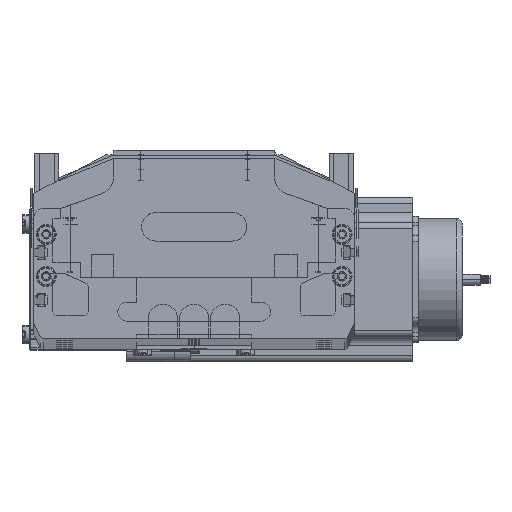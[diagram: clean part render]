
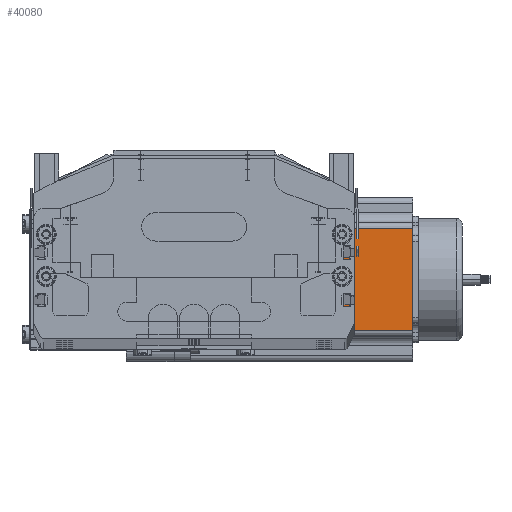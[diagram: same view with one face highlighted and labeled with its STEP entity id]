
A CAD part, top view. The second image highlights one B-rep face of the part: STEP entity #40080.
In plain terms, the highlighted planar face has unit normal (0, 0, 1) as drawn and (0, -1, 0) by its records, which use the part's own axes.
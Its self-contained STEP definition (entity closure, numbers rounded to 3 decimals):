
#36998 = EDGE_CURVE ( 'NONE', #40074, #40078, #46403, .T. ) ;
#39754 = ORIENTED_EDGE ( 'NONE', *, *, #40007, .F. ) ;
#39834 = ORIENTED_EDGE ( 'NONE', *, *, #36998, .T. ) ;
#39947 = VERTEX_POINT ( 'NONE', #50832 ) ;
#40004 = ORIENTED_EDGE ( 'NONE', *, *, #40005, .T. ) ;
#40005 = EDGE_CURVE ( 'NONE', #39947, #40077, #50705, .T. ) ;
#40006 = EDGE_CURVE ( 'NONE', #40078, #39947, #50894, .T. ) ;
#40007 = EDGE_CURVE ( 'NONE', #40074, #40077, #50856, .T. ) ;
#40072 = EDGE_LOOP ( 'NONE', ( #40079, #40004, #39754, #39834 ) ) ;
#40074 = VERTEX_POINT ( 'NONE', #51108 ) ;
#40077 = VERTEX_POINT ( 'NONE', #50955 ) ;
#40078 = VERTEX_POINT ( 'NONE', #51148 ) ;
#40079 = ORIENTED_EDGE ( 'NONE', *, *, #40006, .T. ) ;
#40080 = ADVANCED_FACE ( 'NONE', ( #51111 ), #51107, .F. ) ;
#46334 = DIRECTION ( 'NONE',  ( 0., 0., -1. ) ) ;
#46382 = VECTOR ( 'NONE', #46334, 1000. ) ;
#46383 = CARTESIAN_POINT ( 'NONE',  ( 16.16, 0., 116.5 ) ) ;
#46403 = LINE ( 'NONE', #46383, #46382 ) ;
#50705 = LINE ( 'NONE', #50885, #50896 ) ;
#50832 = CARTESIAN_POINT ( 'NONE',  ( 69.74, 0., 0. ) ) ;
#50848 = DIRECTION ( 'NONE',  ( 1., 0., 0. ) ) ;
#50850 = VECTOR ( 'NONE', #50848, 1000. ) ;
#50852 = CARTESIAN_POINT ( 'NONE',  ( 0., 0., 116.5 ) ) ;
#50856 = LINE ( 'NONE', #50852, #50850 ) ;
#50859 = DIRECTION ( 'NONE',  ( 1., 0., 0. ) ) ;
#50885 = CARTESIAN_POINT ( 'NONE',  ( 69.74, 0., 116.5 ) ) ;
#50892 = VECTOR ( 'NONE', #50859, 1000. ) ;
#50893 = CARTESIAN_POINT ( 'NONE',  ( 0., 0., 0. ) ) ;
#50894 = LINE ( 'NONE', #50893, #50892 ) ;
#50895 = DIRECTION ( 'NONE',  ( 0., 0., 1. ) ) ;
#50896 = VECTOR ( 'NONE', #50895, 1000. ) ;
#50955 = CARTESIAN_POINT ( 'NONE',  ( 69.74, 0., 116.5 ) ) ;
#51107 = PLANE ( 'NONE',  #51150 ) ;
#51108 = CARTESIAN_POINT ( 'NONE',  ( 16.16, 0., 116.5 ) ) ;
#51109 = CARTESIAN_POINT ( 'NONE',  ( 0., 0., 116.5 ) ) ;
#51111 = FACE_OUTER_BOUND ( 'NONE', #40072, .T. ) ;
#51148 = CARTESIAN_POINT ( 'NONE',  ( 16.16, 0., 0. ) ) ;
#51150 = AXIS2_PLACEMENT_3D ( 'NONE', #51109, #51192, #51189 ) ;
#51189 = DIRECTION ( 'NONE',  ( 0., 0., 1. ) ) ;
#51192 = DIRECTION ( 'NONE',  ( 0., 1., 0. ) ) ;
